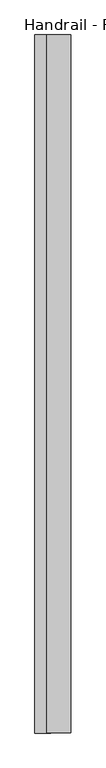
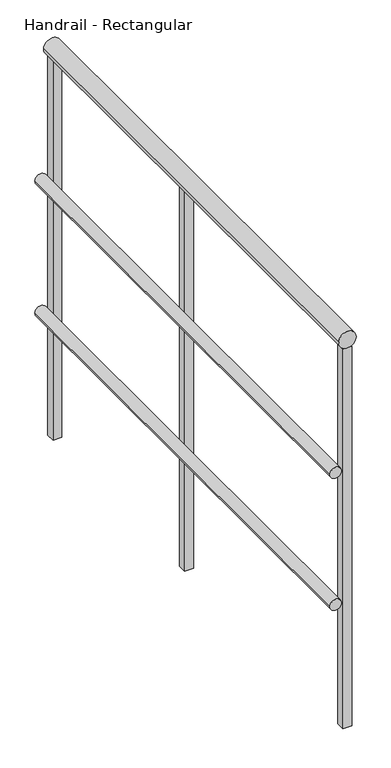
"""IFC4 building model written with IfcOpenShell, lengths in millimetres: railing geometry, Handrail - Rectangular."""

from ifc_helpers import new_model, si_unit, point, frame, frame_2d, origin, place, context, project, spatial, polyline, circle_curve, trimmed, segment, composite_curve, outline, extrude, source, transform, mapped, element, save


def handrail_rectangular_11d6e5c2(model_context):
    return source(origin(), model_context, "Body", "SweptSolid", [
        extrude(outline(composite_curve([segment(trimmed(circle_curve(frame_2d((3644.9, -18476.8839563)), 12.7), [point((3644.9, -18489.5839563))], [point((3644.9, -18464.1839563))], False, "CARTESIAN"), True, "CONTINUOUS"), segment(trimmed(circle_curve(frame_2d((3644.9, -18476.8839563)), 12.7), [point((3644.9, -18464.1839563))], [point((3644.9, -18489.5839563))], False, "CARTESIAN"), True, "CONTINUOUS")], self_intersect=False)), frame((0.0, -35349.9683133, 0.0), z_axis=(0.0, 1.0, 0.0), x_axis=(0.0, 0.0, 1.0)), (0.0, 0.0, 1.0), 1117.6),
        extrude(outline(composite_curve([segment(trimmed(circle_curve(frame_2d((3340.1, -18476.8839563)), 12.7), [point((3340.1, -18489.5839563))], [point((3340.1, -18464.1839563))], False, "CARTESIAN"), True, "CONTINUOUS"), segment(trimmed(circle_curve(frame_2d((3340.1, -18476.8839563)), 12.7), [point((3340.1, -18464.1839563))], [point((3340.1, -18489.5839563))], False, "CARTESIAN"), True, "CONTINUOUS")], self_intersect=False)), frame((0.0, -35349.9683133, 0.0), z_axis=(0.0, 1.0, 0.0), x_axis=(0.0, 0.0, 1.0)), (0.0, 0.0, 1.0), 1117.6),
        extrude(outline(composite_curve([segment(trimmed(circle_curve(frame_2d((3943.35, -18451.4839563)), 19.05), [point((3943.35, -18470.5339563))], [point((3943.35, -18432.4339563))], False, "CARTESIAN"), True, "CONTINUOUS"), segment(trimmed(circle_curve(frame_2d((3943.35, -18451.4839563)), 19.05), [point((3943.35, -18432.4339563))], [point((3943.35, -18470.5339563))], False, "CARTESIAN"), True, "CONTINUOUS")], self_intersect=False)), frame((0.0, -35349.9683133, 0.0), z_axis=(0.0, 1.0, 0.0), x_axis=(0.0, 0.0, 1.0)), (0.0, 0.0, 1.0), 1117.6),
        extrude(outline(polyline([(-18441.9589563, -34749.8933133), (-18461.0089563, -34749.8933133), (-18461.0089563, -34730.8433133), (-18441.9589563, -34730.8433133), (-18441.9589563, -34749.8933133)])), frame((0.0, 0.0, 3048.0), z_axis=(0.0, 0.0, 1.0), x_axis=(1.0, 0.0, 0.0)), (0.0, 0.0, 1.0), 876.3),
        extrude(outline(polyline([(-18441.9589563, -34251.4183133), (-18461.0089563, -34251.4183133), (-18461.0089563, -34232.3683133), (-18441.9589563, -34232.3683133), (-18441.9589563, -34251.4183133)])), frame((0.0, 0.0, 3048.0), z_axis=(0.0, 0.0, 1.0), x_axis=(1.0, 0.0, 0.0)), (0.0, 0.0, 1.0), 876.3),
        extrude(outline(polyline([(-18441.9589563, -35349.9683133), (-18461.0089563, -35349.9683133), (-18461.0089563, -35330.9183133), (-18441.9589563, -35330.9183133), (-18441.9589563, -35349.9683133)])), frame((0.0, 0.0, 3048.0), z_axis=(0.0, 0.0, 1.0), x_axis=(1.0, 0.0, 0.0)), (0.0, 0.0, 1.0), 876.3),
    ])


if __name__ == "__main__":
    model = new_model("IFC4")
    model_context = context("Model", 3, world=origin())
    ifc_project = project(units=[si_unit("LENGTHUNIT", "METRE", prefix="MILLI")], contexts=[model_context])
    site = spatial("IfcSite", under=ifc_project)
    building = spatial("IfcBuilding", under=site)
    placement = place(None, origin())
    handrail_rectangular_shape = handrail_rectangular_11d6e5c2(model_context)
    element("IfcRailing", 1, ObjectType="Handrail - Rectangular", at=placement, inside=building, context=model_context, shape_type="MappedRepresentation", body=[
        mapped(handrail_rectangular_shape, transform((0.0, 0.0, 0.0), x_axis=(1.0, 0.0, 0.0), y_axis=(0.0, 1.0, 0.0), z_axis=(0.0, 0.0, 1.0))),
    ])
    save(model, "model.ifc")
